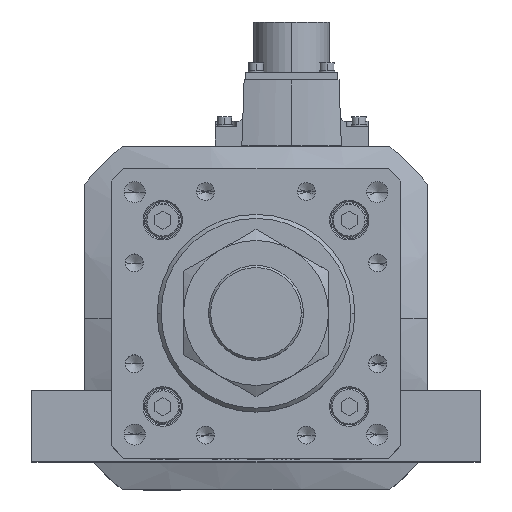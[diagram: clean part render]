
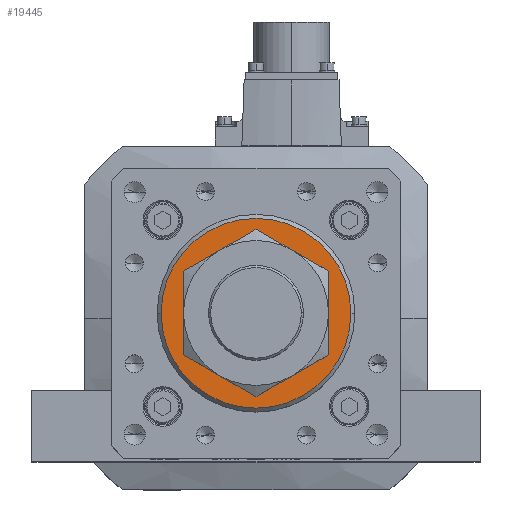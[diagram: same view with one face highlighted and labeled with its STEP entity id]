
A CAD part, top view. The second image highlights one B-rep face of the part: STEP entity #19445.
In plain terms, the highlighted planar face has unit normal (0, 0, 1).
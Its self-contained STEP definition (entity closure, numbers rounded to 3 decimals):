
#649 = AXIS2_PLACEMENT_3D ( 'NONE', #32718, #20869, #23867 ) ;
#1398 = DIRECTION ( 'NONE',  ( 0., 0., 1. ) ) ;
#4173 = DIRECTION ( 'NONE',  ( 0., 0., -1. ) ) ;
#6527 = ORIENTED_EDGE ( 'NONE', *, *, #37750, .T. ) ;
#7177 = DIRECTION ( 'NONE',  ( 1., 0., 0. ) ) ;
#9559 = ORIENTED_EDGE ( 'NONE', *, *, #37654, .T. ) ;
#11443 = VERTEX_POINT ( 'NONE', #14146 ) ;
#12615 = DIRECTION ( 'NONE',  ( 0., 0., 1. ) ) ;
#13549 = CARTESIAN_POINT ( 'NONE',  ( 0., 0., 796. ) ) ;
#14146 = CARTESIAN_POINT ( 'NONE',  ( -36., 0., 796. ) ) ;
#14191 = CIRCLE ( 'NONE', #649, 23. ) ;
#14203 = ORIENTED_EDGE ( 'NONE', *, *, #26062, .T. ) ;
#14861 = AXIS2_PLACEMENT_3D ( 'NONE', #27892, #4173, #7177 ) ;
#15199 = ORIENTED_EDGE ( 'NONE', *, *, #30464, .T. ) ;
#15261 = CARTESIAN_POINT ( 'NONE',  ( 0., 0., 796. ) ) ;
#16110 = AXIS2_PLACEMENT_3D ( 'NONE', #27269, #12615, #36718 ) ;
#16261 = VERTEX_POINT ( 'NONE', #25787 ) ;
#19445 = ADVANCED_FACE ( 'NONE', ( #30826, #28975 ), #27315, .T. ) ;
#20869 = DIRECTION ( 'NONE',  ( 0., 0., -1. ) ) ;
#21196 = DIRECTION ( 'NONE',  ( 1., 0., 0. ) ) ;
#21528 = CIRCLE ( 'NONE', #27802, 36. ) ;
#22476 = VERTEX_POINT ( 'NONE', #33585 ) ;
#23273 = AXIS2_PLACEMENT_3D ( 'NONE', #15261, #33044, #21196 ) ;
#23867 = DIRECTION ( 'NONE',  ( 1., 0., 0. ) ) ;
#24572 = CIRCLE ( 'NONE', #16110, 36. ) ;
#25787 = CARTESIAN_POINT ( 'NONE',  ( 23., 0., 796. ) ) ;
#26062 = EDGE_CURVE ( 'NONE', #16261, #27133, #14191, .T. ) ;
#26666 = EDGE_LOOP ( 'NONE', ( #15199, #9559 ) ) ;
#27133 = VERTEX_POINT ( 'NONE', #31562 ) ;
#27269 = CARTESIAN_POINT ( 'NONE',  ( 0., 0., 796. ) ) ;
#27315 = PLANE ( 'NONE',  #23273 ) ;
#27802 = AXIS2_PLACEMENT_3D ( 'NONE', #13549, #1398, #34551 ) ;
#27892 = CARTESIAN_POINT ( 'NONE',  ( 0., 0., 796. ) ) ;
#28975 = FACE_OUTER_BOUND ( 'NONE', #26666, .T. ) ;
#29184 = CIRCLE ( 'NONE', #14861, 23. ) ;
#30464 = EDGE_CURVE ( 'NONE', #11443, #22476, #21528, .T. ) ;
#30826 = FACE_BOUND ( 'NONE', #35274, .T. ) ;
#31562 = CARTESIAN_POINT ( 'NONE',  ( -23., 0., 796. ) ) ;
#32718 = CARTESIAN_POINT ( 'NONE',  ( 0., 0., 796. ) ) ;
#33044 = DIRECTION ( 'NONE',  ( 0., 0., 1. ) ) ;
#33585 = CARTESIAN_POINT ( 'NONE',  ( 36., 0., 796. ) ) ;
#34551 = DIRECTION ( 'NONE',  ( 1., 0., 0. ) ) ;
#35274 = EDGE_LOOP ( 'NONE', ( #14203, #6527 ) ) ;
#36718 = DIRECTION ( 'NONE',  ( 1., 0., 0. ) ) ;
#37654 = EDGE_CURVE ( 'NONE', #22476, #11443, #24572, .T. ) ;
#37750 = EDGE_CURVE ( 'NONE', #27133, #16261, #29184, .T. ) ;
